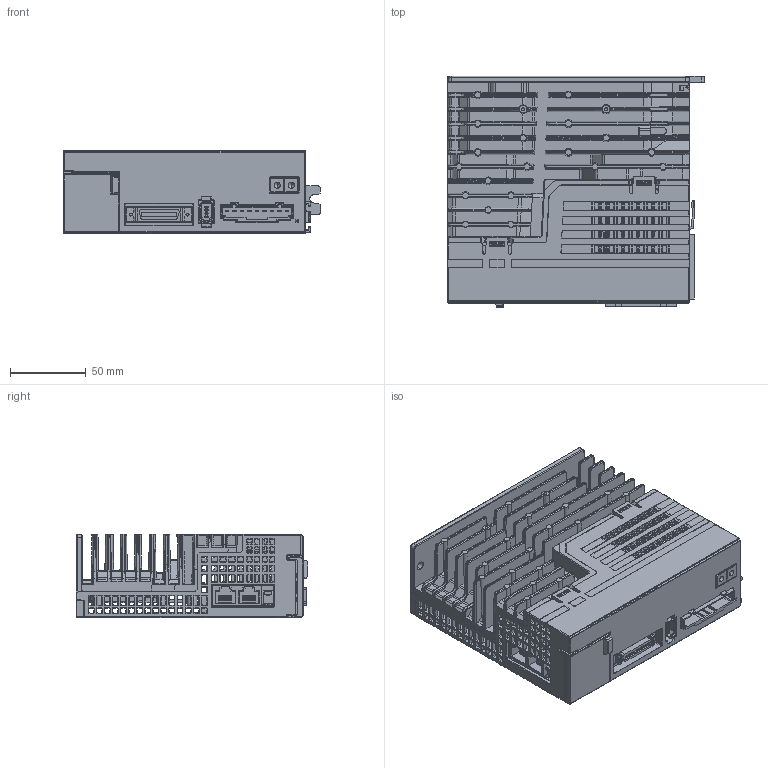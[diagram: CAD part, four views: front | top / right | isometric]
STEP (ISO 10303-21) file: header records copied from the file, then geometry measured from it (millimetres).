
FILE_DESCRIPTION((''),'2;1');
FILE_NAME('PRT0002','2023-02-28T11:12:07',('RD0058'),(''),'CREO PARAMETRIC BY PTC INC, 2016510','CREO PARAMETRIC BY PTC INC, 2016510','');
FILE_SCHEMA(('CONFIG_CONTROL_DESIGN','SHAPE_APPEARANCE_LAYERS_GROUPS'));
Products named in the file (1): PRT0002
Bounding box: 169.97 x 153 x 55 mm (x, y, z)
Surface area: 253273.4 mm2 (no closed solid volume)
Topology: 0 solids, 18 shells, 7894 faces, 22102 edges, 14371 vertices
Faces by surface type: plane 4783, cylinder 2241, cone 381, torus 287, bspline 190, sphere 12
Entity records: 296147 total; most frequent: CARTESIAN_POINT 68851, ORIENTED_EDGE 44120, DIRECTION 36382, EDGE_CURVE 22060, VECTOR 15288, LINE 15288, VERTEX_POINT 14371, AXIS2_PLACEMENT_3D 10547
